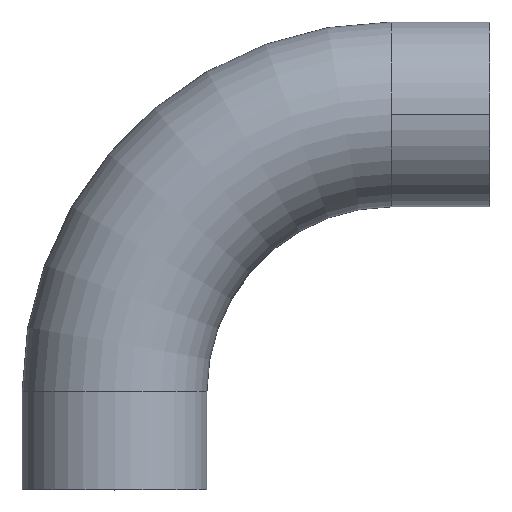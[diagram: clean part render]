
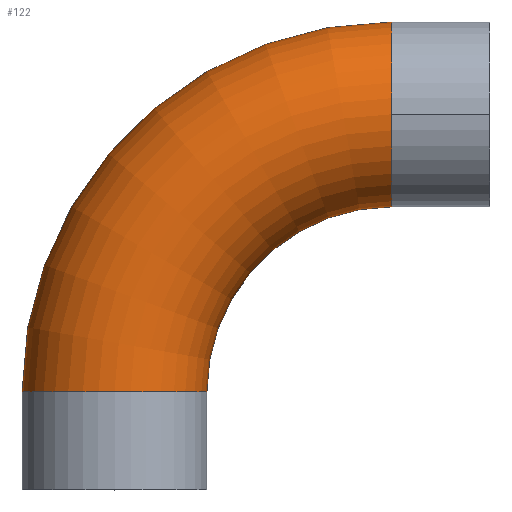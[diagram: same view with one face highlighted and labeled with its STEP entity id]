
A CAD part, top view. The second image highlights one B-rep face of the part: STEP entity #122.
In plain terms, the highlighted toroidal (fillet/blend) face has major radius 76.2 mm and minor radius 25.4 mm.
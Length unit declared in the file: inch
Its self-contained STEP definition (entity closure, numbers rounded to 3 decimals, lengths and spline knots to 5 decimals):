
#2 = EDGE_LOOP ( 'NONE', ( #445, #259, #287, #8, #158 ) ) ;
#8 = ORIENTED_EDGE ( 'NONE', *, *, #453, .T. ) ;
#27 = DIRECTION ( 'NONE',  ( -1., 0., 0. ) ) ;
#42 = DIRECTION ( 'NONE',  ( 0., 0., -1. ) ) ;
#44 = CARTESIAN_POINT ( 'NONE',  ( 3., -3., 0. ) ) ;
#48 = TOROIDAL_SURFACE ( 'NONE', #282, 3., 1. ) ;
#67 = CARTESIAN_POINT ( 'NONE',  ( 3., 1., 0. ) ) ;
#78 = VERTEX_POINT ( 'NONE', #419 ) ;
#88 = DIRECTION ( 'NONE',  ( -1., 0., 0. ) ) ;
#90 = DIRECTION ( 'NONE',  ( 0., 0., -1. ) ) ;
#93 = CARTESIAN_POINT ( 'NONE',  ( 3., -3., 0. ) ) ;
#122 = ADVANCED_FACE ( 'NONE', ( #232 ), #48, .T. ) ;
#130 = VERTEX_POINT ( 'NONE', #370 ) ;
#150 = DIRECTION ( 'NONE',  ( 0., -1., 0. ) ) ;
#152 = AXIS2_PLACEMENT_3D ( 'NONE', #170, #168, #150 ) ;
#156 = AXIS2_PLACEMENT_3D ( 'NONE', #293, #278, #275 ) ;
#158 = ORIENTED_EDGE ( 'NONE', *, *, #393, .T. ) ;
#162 = AXIS2_PLACEMENT_3D ( 'NONE', #411, #409, #389 ) ;
#168 = DIRECTION ( 'NONE',  ( -1., 0., 0. ) ) ;
#170 = CARTESIAN_POINT ( 'NONE',  ( 3., 0., 0. ) ) ;
#181 = AXIS2_PLACEMENT_3D ( 'NONE', #44, #42, #27 ) ;
#199 = AXIS2_PLACEMENT_3D ( 'NONE', #93, #90, #88 ) ;
#212 = CARTESIAN_POINT ( 'NONE',  ( 3., 0., 1. ) ) ;
#232 = FACE_OUTER_BOUND ( 'NONE', #2, .T. ) ;
#259 = ORIENTED_EDGE ( 'NONE', *, *, #375, .F. ) ;
#275 = DIRECTION ( 'NONE',  ( 0., -1., 0. ) ) ;
#278 = DIRECTION ( 'NONE',  ( -1., 0., 0. ) ) ;
#282 = AXIS2_PLACEMENT_3D ( 'NONE', #374, #385, #368 ) ;
#287 = ORIENTED_EDGE ( 'NONE', *, *, #328, .T. ) ;
#293 = CARTESIAN_POINT ( 'NONE',  ( 3., 0., 0. ) ) ;
#306 = CARTESIAN_POINT ( 'NONE',  ( 1., -3., 0. ) ) ;
#310 = CIRCLE ( 'NONE', #156, 1. ) ;
#319 = EDGE_CURVE ( 'NONE', #130, #483, #477, .T. ) ;
#328 = EDGE_CURVE ( 'NONE', #394, #78, #348, .T. ) ;
#348 = CIRCLE ( 'NONE', #181, 2. ) ;
#368 = DIRECTION ( 'NONE',  ( -1., 0., 0. ) ) ;
#370 = CARTESIAN_POINT ( 'NONE',  ( -1., -3., 0. ) ) ;
#374 = CARTESIAN_POINT ( 'NONE',  ( 3., -3., 0. ) ) ;
#375 = EDGE_CURVE ( 'NONE', #394, #130, #429, .T. ) ;
#385 = DIRECTION ( 'NONE',  ( 0., 0., -1. ) ) ;
#389 = DIRECTION ( 'NONE',  ( 1., 0., 0. ) ) ;
#393 = EDGE_CURVE ( 'NONE', #408, #483, #310, .T. ) ;
#394 = VERTEX_POINT ( 'NONE', #306 ) ;
#408 = VERTEX_POINT ( 'NONE', #212 ) ;
#409 = DIRECTION ( 'NONE',  ( 0., -1., 0. ) ) ;
#411 = CARTESIAN_POINT ( 'NONE',  ( 0., -3., 0. ) ) ;
#419 = CARTESIAN_POINT ( 'NONE',  ( 3., -1., 0. ) ) ;
#429 = CIRCLE ( 'NONE', #162, 1. ) ;
#443 = CIRCLE ( 'NONE', #152, 1. ) ;
#445 = ORIENTED_EDGE ( 'NONE', *, *, #319, .F. ) ;
#453 = EDGE_CURVE ( 'NONE', #78, #408, #443, .T. ) ;
#477 = CIRCLE ( 'NONE', #199, 4. ) ;
#483 = VERTEX_POINT ( 'NONE', #67 ) ;
